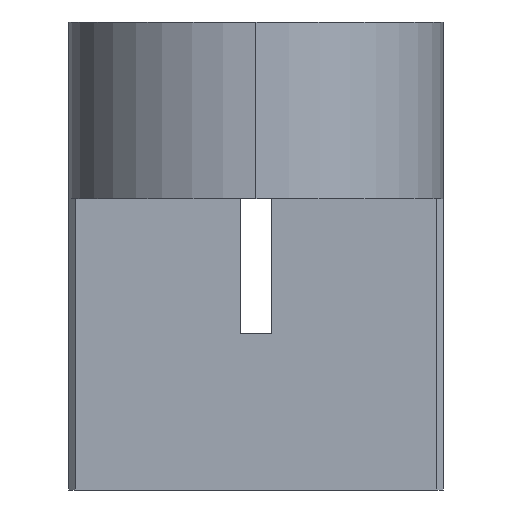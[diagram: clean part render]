
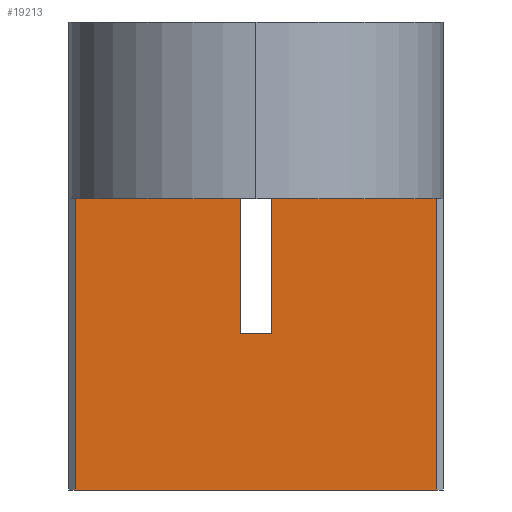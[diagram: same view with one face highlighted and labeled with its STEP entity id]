
A CAD part, left-side view. The second image highlights one B-rep face of the part: STEP entity #19213.
In plain terms, the highlighted planar face has unit normal (-1, 0, 0).
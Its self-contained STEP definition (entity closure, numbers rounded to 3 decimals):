
#141 = EDGE_CURVE ( 'NONE', #5058, #2735, #6248, .T. ) ;
#257 = DIRECTION ( 'NONE',  ( 0., -1., 0. ) ) ;
#294 = DIRECTION ( 'NONE',  ( 1., 0., 0. ) ) ;
#880 = EDGE_CURVE ( 'NONE', #12408, #7439, #21581, .T. ) ;
#1409 = CARTESIAN_POINT ( 'NONE',  ( -29.063, 28.318, -3.75 ) ) ;
#1626 = DIRECTION ( 'NONE',  ( 0., -1., 0. ) ) ;
#1677 = VERTEX_POINT ( 'NONE', #5921 ) ;
#1684 = VECTOR ( 'NONE', #1626, 1000. ) ;
#2459 = VECTOR ( 'NONE', #16505, 1000. ) ;
#2735 = VERTEX_POINT ( 'NONE', #5504 ) ;
#3415 = EDGE_LOOP ( 'NONE', ( #3779, #14611, #21726, #6033, #22898, #18728, #4037, #13166 ) ) ;
#3779 = ORIENTED_EDGE ( 'NONE', *, *, #17413, .F. ) ;
#4037 = ORIENTED_EDGE ( 'NONE', *, *, #11665, .F. ) ;
#4048 = EDGE_CURVE ( 'NONE', #21832, #5770, #5354, .T. ) ;
#5058 = VERTEX_POINT ( 'NONE', #15848 ) ;
#5354 = LINE ( 'NONE', #5634, #5941 ) ;
#5504 = CARTESIAN_POINT ( 'NONE',  ( -29.063, 20.368, -11.25 ) ) ;
#5634 = CARTESIAN_POINT ( 'NONE',  ( -29.063, 29.068, 2.75 ) ) ;
#5770 = VERTEX_POINT ( 'NONE', #21570 ) ;
#5921 = CARTESIAN_POINT ( 'NONE',  ( -29.063, 28.318, 2.75 ) ) ;
#5941 = VECTOR ( 'NONE', #11052, 1000. ) ;
#6033 = ORIENTED_EDGE ( 'NONE', *, *, #7197, .F. ) ;
#6248 = LINE ( 'NONE', #7350, #16640 ) ;
#7041 = CARTESIAN_POINT ( 'NONE',  ( -29.063, 37.768, -4.25 ) ) ;
#7197 = EDGE_CURVE ( 'NONE', #1677, #5058, #19550, .T. ) ;
#7350 = CARTESIAN_POINT ( 'NONE',  ( -29.063, 20.368, -4.25 ) ) ;
#7439 = VERTEX_POINT ( 'NONE', #1409 ) ;
#7744 = CARTESIAN_POINT ( 'NONE',  ( -29.063, 28.318, 3.75 ) ) ;
#8009 = VECTOR ( 'NONE', #22801, 1000. ) ;
#8328 = CARTESIAN_POINT ( 'NONE',  ( -29.063, 37.768, 2.75 ) ) ;
#9230 = DIRECTION ( 'NONE',  ( 0., 0., -1. ) ) ;
#10718 = CARTESIAN_POINT ( 'NONE',  ( -29.063, 29.818, -4.25 ) ) ;
#10786 = PLANE ( 'NONE',  #11061 ) ;
#11052 = DIRECTION ( 'NONE',  ( 0., -1., 0. ) ) ;
#11061 = AXIS2_PLACEMENT_3D ( 'NONE', #18057, #294, #14400 ) ;
#11665 = EDGE_CURVE ( 'NONE', #5770, #12408, #17501, .T. ) ;
#12408 = VERTEX_POINT ( 'NONE', #16977 ) ;
#13166 = ORIENTED_EDGE ( 'NONE', *, *, #4048, .F. ) ;
#13327 = LINE ( 'NONE', #14081, #8009 ) ;
#14081 = CARTESIAN_POINT ( 'NONE',  ( -29.063, 29.068, -11.25 ) ) ;
#14400 = DIRECTION ( 'NONE',  ( 0., 0., -1. ) ) ;
#14526 = CARTESIAN_POINT ( 'NONE',  ( -29.063, 29.068, 2.75 ) ) ;
#14611 = ORIENTED_EDGE ( 'NONE', *, *, #16260, .T. ) ;
#14688 = VECTOR ( 'NONE', #23124, 1000. ) ;
#15848 = CARTESIAN_POINT ( 'NONE',  ( -29.063, 20.368, 2.75 ) ) ;
#16208 = CARTESIAN_POINT ( 'NONE',  ( -29.063, 29.068, -3.75 ) ) ;
#16260 = EDGE_CURVE ( 'NONE', #21358, #2735, #13327, .T. ) ;
#16505 = DIRECTION ( 'NONE',  ( 0., 0., 1. ) ) ;
#16640 = VECTOR ( 'NONE', #9230, 1000. ) ;
#16804 = CARTESIAN_POINT ( 'NONE',  ( -29.063, 37.768, -11.25 ) ) ;
#16977 = CARTESIAN_POINT ( 'NONE',  ( -29.063, 29.818, -3.75 ) ) ;
#17076 = LINE ( 'NONE', #7744, #2459 ) ;
#17413 = EDGE_CURVE ( 'NONE', #21358, #21832, #23059, .T. ) ;
#17501 = LINE ( 'NONE', #10718, #14688 ) ;
#17643 = FACE_OUTER_BOUND ( 'NONE', #3415, .T. ) ;
#18057 = CARTESIAN_POINT ( 'NONE',  ( -29.063, 20.368, 2.75 ) ) ;
#18728 = ORIENTED_EDGE ( 'NONE', *, *, #880, .F. ) ;
#19213 = ADVANCED_FACE ( 'NONE', ( #17643 ), #10786, .F. ) ;
#19550 = LINE ( 'NONE', #14526, #23196 ) ;
#19832 = DIRECTION ( 'NONE',  ( 0., 0., 1. ) ) ;
#20254 = VECTOR ( 'NONE', #19832, 1000. ) ;
#21358 = VERTEX_POINT ( 'NONE', #16804 ) ;
#21570 = CARTESIAN_POINT ( 'NONE',  ( -29.063, 29.818, 2.75 ) ) ;
#21581 = LINE ( 'NONE', #16208, #1684 ) ;
#21726 = ORIENTED_EDGE ( 'NONE', *, *, #141, .F. ) ;
#21832 = VERTEX_POINT ( 'NONE', #8328 ) ;
#22801 = DIRECTION ( 'NONE',  ( 0., -1., 0. ) ) ;
#22843 = EDGE_CURVE ( 'NONE', #7439, #1677, #17076, .T. ) ;
#22898 = ORIENTED_EDGE ( 'NONE', *, *, #22843, .F. ) ;
#23059 = LINE ( 'NONE', #7041, #20254 ) ;
#23124 = DIRECTION ( 'NONE',  ( 0., 0., -1. ) ) ;
#23196 = VECTOR ( 'NONE', #257, 1000. ) ;
